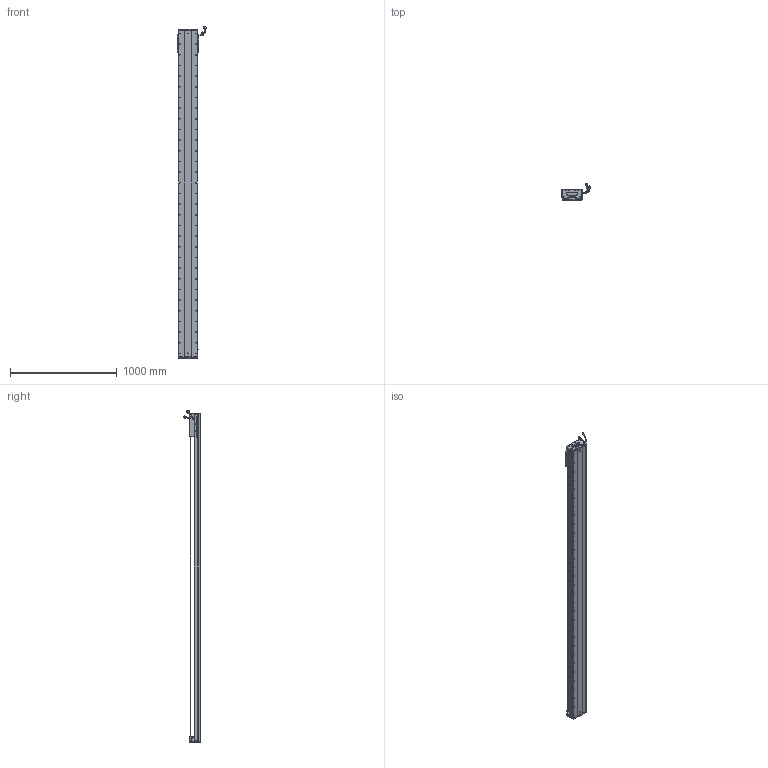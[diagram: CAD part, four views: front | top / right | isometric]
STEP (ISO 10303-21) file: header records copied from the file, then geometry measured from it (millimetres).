
FILE_DESCRIPTION (( 'STEP AP203' ), '1' );
FILE_NAME ('Z2-RY170D-1-L500-B-K.SLDASM_2800.step', '2021-05-17T09:12:09', ( '盈信电脑' ), ( '东莞市道滘镇水果街19号' ), 'SwSTEP 2.0', 'SolidWorks 2016', '' );
FILE_SCHEMA (( 'CONFIG_CONTROL_DESIGN' ));
Length unit declared in the file: millimetre
Products named in the file (36): HARNESS; HARNESS-Part-1; Z-RY170詩湍狟揤裔; 170-Z-臏賑輸盄裔(21遴); 榋妏寠巭燃_暯_M2_2; SCREW-M1.6; SCREW-M1.6-1; SCREW-M1.7; COVER-Part-1; SCALE-Part-1; SCREW-M1.6-3; COVER; Z2-RY170D-1-L500-B-K.SLDASM_2800; SCREW-M1.6-2; SHIELDPLATE; PBU_SHEET; RY170直线电机感应器672光电感应片; Z2-RY170-L500耀郪菁釱_2800; 080黍杅芛假蚾釱21遴; LABEL-Part-1; Z-170詩湍傷裔啣; 140蚥薯蝶輸; Z-RY170詩湍奻揤裔; SEAL; SCREW-M1.7-1; 覜茼ん672; SCALE; LABEL; 140雄赽晤鎢ん堤盄; HOLDER0; HARNESS-Part-2; PSLH080_PSLF2; SCALE-Part-2; Z2-RY170臏賑輸(21遴); Z2-RY170-L500詩湍145mm遵_2800; SEAL-Part-1
Assembly tree (41 placements, depth 4):
  Z2-RY170D-1-L500-B-K.SLDASM_2800
    Z2-RY170-L500耀郪菁釱_2800
    RY170直线电机感应器672光电感应片
    Z2-RY170臏賑輸(21遴)
    覜茼ん672  x3
    PSLH080_PSLF2
      SCALE
        SCALE-Part-1
        SCALE-Part-2
      HARNESS
        HARNESS-Part-1
        HARNESS-Part-2
      LABEL
        LABEL-Part-1
      COVER
        COVER-Part-1
      SEAL
        SEAL-Part-1
      榋妏寠巭燃_暯_M2_2
      SHIELDPLATE
      SCREW-M1.7
      SCREW-M1.7-1
      PBU_SHEET
      SCREW-M1.6
      SCREW-M1.6-1
      SCREW-M1.6-2
      SCREW-M1.6-3
      HOLDER0
    080黍杅芛假蚾釱21遴
    Z2-RY170-L500詩湍145mm遵_2800
    Z-170詩湍傷裔啣  x2
    Z-RY170詩湍奻揤裔  x2
    Z-RY170詩湍狟揤裔  x2
    140蚥薯蝶輸  x2
    170-Z-臏賑輸盄裔(21遴)
    140雄赽晤鎢ん堤盄
Bounding box: 275.29 x 158.11 x 3113.72 mm (x, y, z)
Volume: 14973908.4 mm3; surface area: 3722512.8 mm2
Topology: 36 solids, 36 shells, 4400 faces, 12323 edges, 7693 vertices
Faces by surface type: cylinder 2274, plane 1368, cone 636, torus 69, bspline 53
Entity records: 141295 total; most frequent: CARTESIAN_POINT 40534, ORIENTED_EDGE 20978, DIRECTION 19233, EDGE_CURVE 10489, AXIS2_PLACEMENT_3D 7098, VERTEX_POINT 6811, VECTOR 5037, LINE 5037
